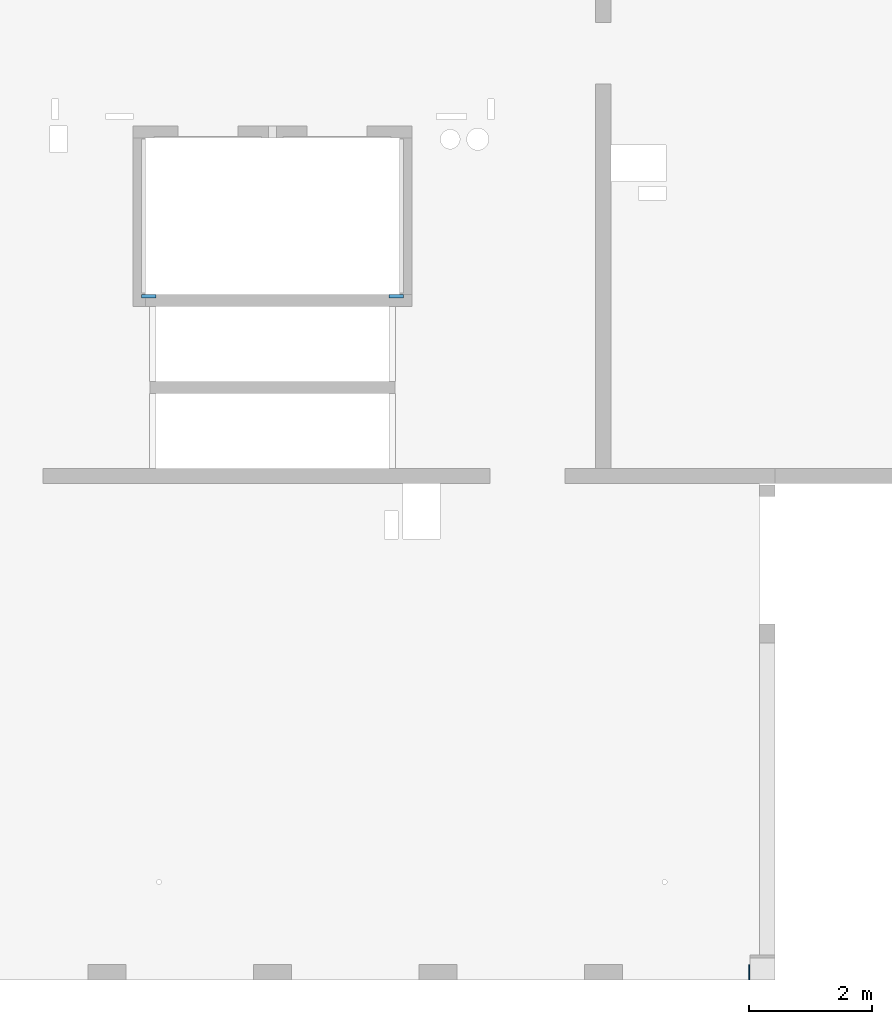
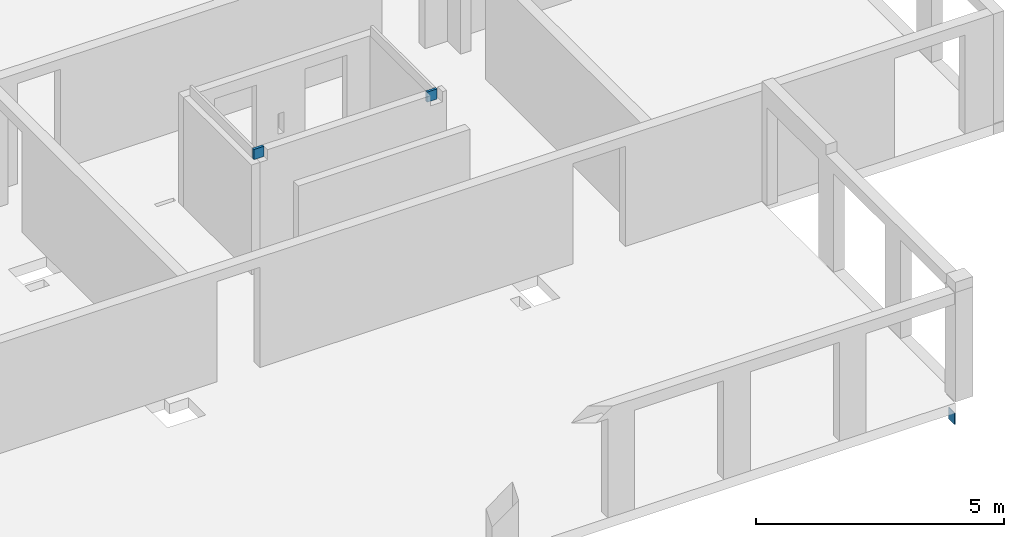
# One storey, part 7 of 8: 3 walls.
"""IFC2X3 building model written with IfcOpenShell, lengths in millimetres."""

from ifc_helpers import new_model, entity, si_unit, converted_unit, derived_unit, direction, frame, frame_2d, origin, place, context, subcontext, project, spatial, rectangle, extrude, material, layer, layer_set, layer_usage, type_object, element, save


model = new_model("IFC2X3")

# Units and contexts
model_context = context("Model", 3, precision=0.01, world=origin(), true_north=direction((6.12303176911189e-17, 1.0)))
body_context = subcontext(model_context, "Body", "Model", "MODEL_VIEW")
ifc_project = project(units=[si_unit("LENGTHUNIT", "METRE", prefix="MILLI"), si_unit("AREAUNIT", "SQUARE_METRE"), si_unit("VOLUMEUNIT", "CUBIC_METRE"), converted_unit("PLANEANGLEUNIT", "DEGREE", entity("IfcRatioMeasure", 0.0174532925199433), si_unit("PLANEANGLEUNIT", "RADIAN"), dimensions=[0, 0, 0, 0, 0, 0, 0]), si_unit("MASSUNIT", "GRAM", prefix="KILO"), derived_unit("MASSDENSITYUNIT", [(si_unit("MASSUNIT", "GRAM", prefix="KILO"), 1), (si_unit("LENGTHUNIT", "METRE"), -3)]), si_unit("TIMEUNIT", "SECOND"), si_unit("FREQUENCYUNIT", "HERTZ"), si_unit("THERMODYNAMICTEMPERATUREUNIT", "DEGREE_CELSIUS"), derived_unit("THERMALTRANSMITTANCEUNIT", [(si_unit("MASSUNIT", "GRAM", prefix="KILO"), 1), (si_unit("THERMODYNAMICTEMPERATUREUNIT", "KELVIN"), -1), (si_unit("TIMEUNIT", "SECOND"), -3)]), derived_unit("VOLUMETRICFLOWRATEUNIT", [(si_unit("LENGTHUNIT", "METRE"), 3), (si_unit("TIMEUNIT", "SECOND"), -1)]), si_unit("ELECTRICCURRENTUNIT", "AMPERE"), si_unit("ELECTRICVOLTAGEUNIT", "VOLT"), si_unit("POWERUNIT", "WATT"), si_unit("FORCEUNIT", "NEWTON", prefix="KILO"), si_unit("ILLUMINANCEUNIT", "LUX"), si_unit("LUMINOUSFLUXUNIT", "LUMEN"), si_unit("LUMINOUSINTENSITYUNIT", "CANDELA"), derived_unit("USERDEFINED", [(si_unit("MASSUNIT", "GRAM", prefix="KILO"), -1), (si_unit("LENGTHUNIT", "METRE"), -2), (si_unit("TIMEUNIT", "SECOND"), 3), (si_unit("LUMINOUSFLUXUNIT", "LUMEN"), 1)]), derived_unit("LINEARVELOCITYUNIT", [(si_unit("LENGTHUNIT", "METRE"), 1), (si_unit("TIMEUNIT", "SECOND"), -1)]), si_unit("PRESSUREUNIT", "PASCAL"), derived_unit("USERDEFINED", [(si_unit("LENGTHUNIT", "METRE"), -2), (si_unit("MASSUNIT", "GRAM", prefix="KILO"), 1), (si_unit("TIMEUNIT", "SECOND"), -2)])], contexts=[model_context])

# Site, building, storey
site_placement = place(None, origin())
site = spatial("IfcSite", under=ifc_project, at=site_placement, Name="Default", CompositionType="ELEMENT")
building_placement = place(site_placement, origin())
building = spatial("IfcBuilding", under=site, at=building_placement, Name="niet gebruiken", CompositionType="ELEMENT")
storey_placement = place(building_placement, frame((0.0, 0.0, 39330.0)))
storey = spatial("IfcBuildingStorey", under=building, at=storey_placement, Name="13 dertiende verdieping", CompositionType="ELEMENT", Elevation=39330.0)

# Walls
ifc_material_1 = material(Name="NLRS_f2_beton ihwg")
ifc_layer_1 = layer(ifc_material_1, 250.0)
ifc_layer_set_1 = layer_set([ifc_layer_1], Name="Basic Wall:NLRS_21.21_WA_beton ihwg d=250_gen")
ifc_layer_usage_1 = layer_usage(ifc_layer_set_1, "AXIS2", "NEGATIVE", 125.0)
wall_type_1 = type_object("IfcWallType", Name="Basic Wall:NLRS_21.21_WA_beton ihwg d=250_gen", PredefinedType="STANDARD", material=ifc_layer_set_1)
wall_1_placement = place(storey_placement, frame((99570.0, 28881.0, -620.0)))
element("IfcWallStandardCase", 1, at=wall_1_placement, inside=storey, type_object=wall_type_1, material=ifc_layer_usage_1, Name="Basic Wall:NLRS_21.21_WA_beton ihwg d=250_gen", ObjectType="Basic Wall:NLRS_21.21_WA_beton ihwg d=250_gen", context=body_context, shape_type="SweptSolid", body=[
    extrude(rectangle(XDim=19.9999999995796, YDim=250.000000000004, at=frame_2d((9.99999999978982, 1.63424829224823e-13), x_axis=(-1.0, 0.0))), origin(), (0.0, 0.0, 1.0), 280.000000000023),
])
ifc_material_2 = material(Name="NLRS_f2_beton prefab")
ifc_layer_2 = layer(ifc_material_2, 60.0)
ifc_layer_set_2 = layer_set([ifc_layer_2], Name="Basic Wall:NLRS_22.21_WA_beton prefab d=60_gen")
ifc_layer_usage_2 = layer_usage(ifc_layer_set_2, "AXIS2", "NEGATIVE", 30.0)
wall_type_2 = type_object("IfcWallType", Name="Basic Wall:NLRS_22.21_WA_beton prefab d=60_gen", PredefinedType="STANDARD", material=ifc_layer_set_2)
wall_2_placement = place(storey_placement, frame((89665.0, 39916.0, 2630.0)))
element("IfcWallStandardCase", 2, at=wall_2_placement, inside=storey, type_object=wall_type_2, material=ifc_layer_usage_2, Name="Basic Wall:NLRS_22.21_WA_beton prefab d=60_gen", ObjectType="Basic Wall:NLRS_22.21_WA_beton prefab d=60_gen", context=body_context, shape_type="SweptSolid", body=[
    extrude(rectangle(XDim=234.999967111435, YDim=60.0000000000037, at=frame_2d((117.499983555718, -4.12292422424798e-12), x_axis=(-1.0, 0.0))), origin(), (0.0, 0.0, 1.0), 250.000000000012),
])
ifc_layer_usage_3 = layer_usage(ifc_layer_set_2, "AXIS2", "POSITIVE", -30.0)
wall_3_placement = place(storey_placement, frame((93935.0, 39916.0, 2630.0), z_axis=(0.0, 0.0, 1.0), x_axis=(-1.0, 0.0, 0.0)))
element("IfcWallStandardCase", 3, at=wall_3_placement, inside=storey, type_object=wall_type_2, material=ifc_layer_usage_3, Name="Basic Wall:NLRS_22.21_WA_beton prefab d=60_gen", ObjectType="Basic Wall:NLRS_22.21_WA_beton prefab d=60_gen", context=body_context, shape_type="SweptSolid", body=[
    extrude(rectangle(XDim=234.999967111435, YDim=60.0000000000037, at=frame_2d((117.499983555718, 4.12114786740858e-12), x_axis=(-1.0, 0.0))), origin(), (0.0, 0.0, 1.0), 250.000000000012),
])

save(model, "model.ifc")
